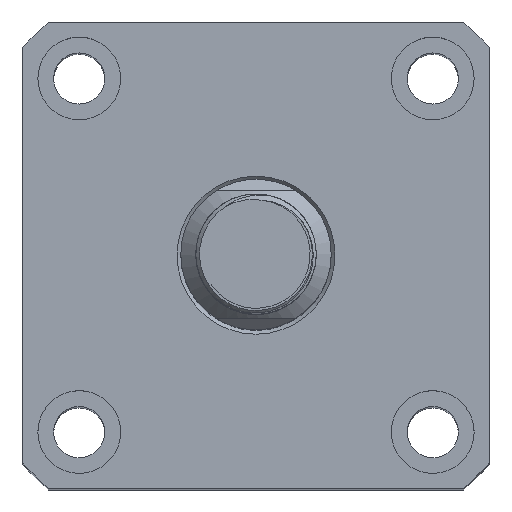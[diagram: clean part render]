
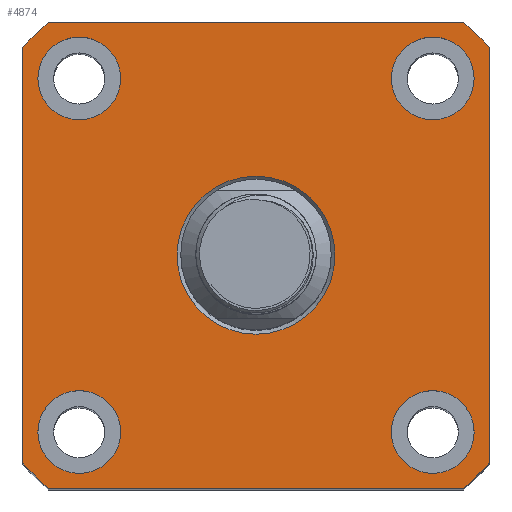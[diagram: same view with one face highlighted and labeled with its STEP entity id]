
A CAD part, top view. The second image highlights one B-rep face of the part: STEP entity #4874.
In plain terms, the highlighted planar face has unit normal (0, 0, 1).
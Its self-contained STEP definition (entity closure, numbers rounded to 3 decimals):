
#2396=PLANE('',#11346);
#2681=LINE('',#20038,#3428);
#2690=LINE('',#20631,#3437);
#2694=LINE('',#20646,#3441);
#2697=LINE('',#20655,#3444);
#3428=VECTOR('',#11865,1.);
#3437=VECTOR('',#12022,1.);
#3441=VECTOR('',#12040,1.);
#3444=VECTOR('',#12051,1.);
#4692=FACE_BOUND('',#5795,.T.);
#4693=FACE_BOUND('',#5796,.T.);
#4694=FACE_BOUND('',#5797,.T.);
#4695=FACE_BOUND('',#5798,.T.);
#4696=FACE_BOUND('',#5799,.T.);
#4697=FACE_BOUND('',#5800,.T.);
#4874=ADVANCED_FACE('',(#4692,#4693,#4694,#4695,#4696,#4697),#2396,.T.);
#5795=EDGE_LOOP('',(#6933));
#5796=EDGE_LOOP('',(#6934));
#5797=EDGE_LOOP('',(#6935));
#5798=EDGE_LOOP('',(#6936));
#5799=EDGE_LOOP('',(#6937));
#5800=EDGE_LOOP('',(#6938,#6939,#6940,#6941,#6942,#6943,#6944,#6945));
#6252=CIRCLE('',#11281,10.5);
#6259=CIRCLE('',#11292,5.5);
#6261=CIRCLE('',#11295,5.5);
#6263=CIRCLE('',#11298,5.5);
#6265=CIRCLE('',#11301,5.5);
#6286=CIRCLE('',#11332,41.5);
#6288=CIRCLE('',#11336,41.5);
#6290=CIRCLE('',#11339,41.5);
#6292=CIRCLE('',#11343,41.5);
#6933=ORIENTED_EDGE('',*,*,#9996,.T.);
#6934=ORIENTED_EDGE('',*,*,#10003,.F.);
#6935=ORIENTED_EDGE('',*,*,#10005,.F.);
#6936=ORIENTED_EDGE('',*,*,#10007,.F.);
#6937=ORIENTED_EDGE('',*,*,#10009,.F.);
#6938=ORIENTED_EDGE('',*,*,#10065,.T.);
#6939=ORIENTED_EDGE('',*,*,#10069,.T.);
#6940=ORIENTED_EDGE('',*,*,#10071,.T.);
#6941=ORIENTED_EDGE('',*,*,#9980,.T.);
#6942=ORIENTED_EDGE('',*,*,#10074,.T.);
#6943=ORIENTED_EDGE('',*,*,#10077,.T.);
#6944=ORIENTED_EDGE('',*,*,#10080,.T.);
#6945=ORIENTED_EDGE('',*,*,#10082,.T.);
#9035=VERTEX_POINT('',#20037);
#9036=VERTEX_POINT('',#20039);
#9051=VERTEX_POINT('',#20199);
#9058=VERTEX_POINT('',#20217);
#9060=VERTEX_POINT('',#20222);
#9062=VERTEX_POINT('',#20227);
#9064=VERTEX_POINT('',#20232);
#9120=VERTEX_POINT('',#20622);
#9121=VERTEX_POINT('',#20624);
#9123=VERTEX_POINT('',#20630);
#9125=VERTEX_POINT('',#20639);
#9127=VERTEX_POINT('',#20645);
#9129=VERTEX_POINT('',#20651);
#9980=EDGE_CURVE('',#9036,#9035,#2681,.T.);
#9996=EDGE_CURVE('',#9051,#9051,#6252,.T.);
#10003=EDGE_CURVE('',#9058,#9058,#6259,.T.);
#10005=EDGE_CURVE('',#9060,#9060,#6261,.T.);
#10007=EDGE_CURVE('',#9062,#9062,#6263,.T.);
#10009=EDGE_CURVE('',#9064,#9064,#6265,.T.);
#10065=EDGE_CURVE('',#9121,#9120,#6286,.T.);
#10069=EDGE_CURVE('',#9120,#9123,#2690,.T.);
#10071=EDGE_CURVE('',#9123,#9036,#6288,.T.);
#10074=EDGE_CURVE('',#9035,#9125,#6290,.T.);
#10077=EDGE_CURVE('',#9125,#9127,#2694,.T.);
#10080=EDGE_CURVE('',#9127,#9129,#6292,.T.);
#10082=EDGE_CURVE('',#9129,#9121,#2697,.T.);
#11281=AXIS2_PLACEMENT_3D('',#20198,#11909,#11910);
#11292=AXIS2_PLACEMENT_3D('',#20216,#11931,#11932);
#11295=AXIS2_PLACEMENT_3D('',#20221,#11937,#11938);
#11298=AXIS2_PLACEMENT_3D('',#20226,#11943,#11944);
#11301=AXIS2_PLACEMENT_3D('',#20231,#11949,#11950);
#11332=AXIS2_PLACEMENT_3D('',#20623,#12015,#12016);
#11336=AXIS2_PLACEMENT_3D('',#20634,#12027,#12028);
#11339=AXIS2_PLACEMENT_3D('',#20640,#12034,#12035);
#11343=AXIS2_PLACEMENT_3D('',#20652,#12046,#12047);
#11346=AXIS2_PLACEMENT_3D('',#20657,#12054,#12055);
#11865=DIRECTION('',(0.,1.,0.));
#11909=DIRECTION('',(0.,0.,-1.));
#11910=DIRECTION('',(1.,0.,0.));
#11931=DIRECTION('',(0.,0.,1.));
#11932=DIRECTION('',(1.,0.,0.));
#11937=DIRECTION('',(0.,0.,1.));
#11938=DIRECTION('',(1.,0.,0.));
#11943=DIRECTION('',(0.,0.,1.));
#11944=DIRECTION('',(1.,0.,0.));
#11949=DIRECTION('',(0.,0.,1.));
#11950=DIRECTION('',(1.,0.,0.));
#12015=DIRECTION('',(0.,0.,1.));
#12016=DIRECTION('',(1.,0.,0.));
#12022=DIRECTION('',(1.,0.,0.));
#12027=DIRECTION('',(0.,0.,1.));
#12028=DIRECTION('',(1.,0.,0.));
#12034=DIRECTION('',(0.,0.,1.));
#12035=DIRECTION('',(1.,0.,0.));
#12040=DIRECTION('',(-1.,0.,0.));
#12046=DIRECTION('',(0.,0.,1.));
#12047=DIRECTION('',(1.,0.,0.));
#12051=DIRECTION('',(0.,-1.,0.));
#12054=DIRECTION('',(0.,0.,1.));
#12055=DIRECTION('',(-1.,0.,0.));
#20037=CARTESIAN_POINT('',(31.,27.591,59.5));
#20038=CARTESIAN_POINT('',(31.,27.591,59.5));
#20039=CARTESIAN_POINT('',(31.,-27.591,59.5));
#20198=CARTESIAN_POINT('',(0.,0.,59.5));
#20199=CARTESIAN_POINT('',(10.5,0.,59.5));
#20216=CARTESIAN_POINT('',(-23.5,-23.5,59.5));
#20217=CARTESIAN_POINT('',(-18.,-23.5,59.5));
#20221=CARTESIAN_POINT('',(-23.5,23.5,59.5));
#20222=CARTESIAN_POINT('',(-18.,23.5,59.5));
#20226=CARTESIAN_POINT('',(23.5,-23.5,59.5));
#20227=CARTESIAN_POINT('',(29.,-23.5,59.5));
#20231=CARTESIAN_POINT('',(23.5,23.5,59.5));
#20232=CARTESIAN_POINT('',(29.,23.5,59.5));
#20622=CARTESIAN_POINT('',(-27.591,-31.,59.5));
#20623=CARTESIAN_POINT('',(0.,0.,59.5));
#20624=CARTESIAN_POINT('',(-31.,-27.591,59.5));
#20630=CARTESIAN_POINT('',(27.591,-31.,59.5));
#20631=CARTESIAN_POINT('',(-27.591,-31.,59.5));
#20634=CARTESIAN_POINT('',(0.,0.,59.5));
#20639=CARTESIAN_POINT('',(27.591,31.,59.5));
#20640=CARTESIAN_POINT('',(0.,0.,59.5));
#20645=CARTESIAN_POINT('',(-27.591,31.,59.5));
#20646=CARTESIAN_POINT('',(-27.591,31.,59.5));
#20651=CARTESIAN_POINT('',(-31.,27.591,59.5));
#20652=CARTESIAN_POINT('',(0.,0.,59.5));
#20655=CARTESIAN_POINT('',(-31.,27.591,59.5));
#20657=CARTESIAN_POINT('',(0.,0.,59.5));
